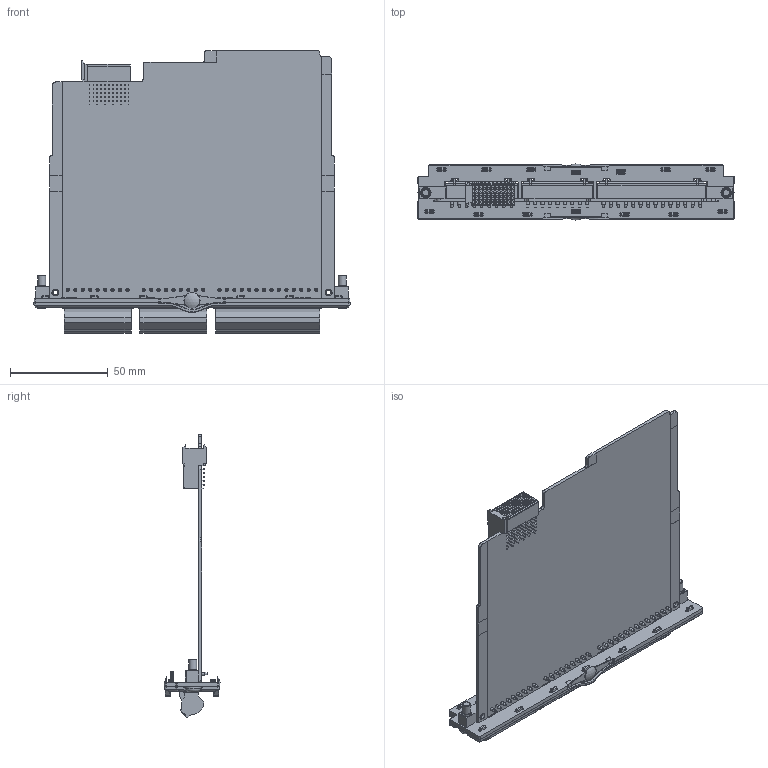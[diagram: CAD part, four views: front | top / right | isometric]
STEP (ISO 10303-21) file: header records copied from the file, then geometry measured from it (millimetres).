
FILE_DESCRIPTION(/* description */ (''),/* implementation_level */ '2;1');
FILE_NAME(/* name */ 'IOM3.4_3D CAD_20250228.stp',/* time_stamp */ '2025-02-28T15:18:53+01:00',/* author */ ('DSP'),/* organization */ (''),/* preprocessor_version */ 'ST-DEVELOPER v19.2',/* originating_system */ 'Autodesk Inventor 2023',/* authorisation */ '');
FILE_SCHEMA (('AUTOMOTIVE_DESIGN { 1 0 10303 214 3 1 1 }'));
Products named in the file (1): IOM3.4_3D CAD_SMPL_20250228
Bounding box: 162 x 28.71 x 144.9 mm (x, y, z)
Volume: 70532.5 mm3; surface area: 61709.5 mm2
Topology: 1 solids, 1 shells, 3208 faces, 8060 edges, 4976 vertices
Faces by surface type: plane 1996, cylinder 866, bspline 179, sphere 89, cone 54, torus 24
Full cylindrical faces by diameter (mm): 0.6 x12, 1.7 x32, 2.459 x2, 2.5 x2, 2.8 x32, 3 x2, 3.242 x2, 4 x2, 4.4 x2, 5.5 x2, 8 x2
Entity records: 102739 total; most frequent: CARTESIAN_POINT 22462, ORIENTED_EDGE 15956, DIRECTION 15927, EDGE_CURVE 7978, LINE 5635, VECTOR 5635, AXIS2_PLACEMENT_3D 5146, VERTEX_POINT 4976
